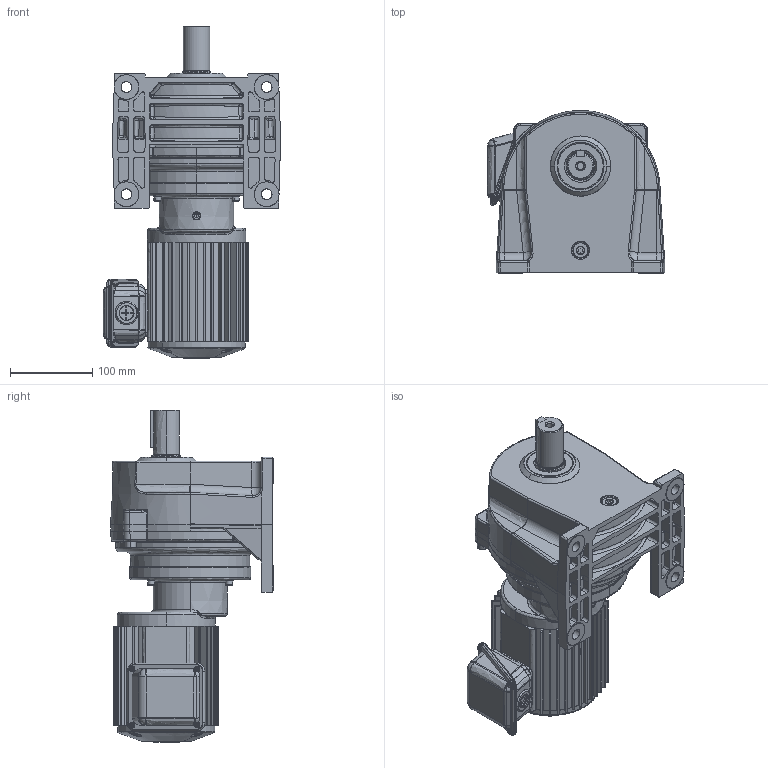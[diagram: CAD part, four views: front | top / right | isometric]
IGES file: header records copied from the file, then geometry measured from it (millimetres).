
Start section: SolidWorks IGES file using analytic representation for surfaces
Global section: file name: \\100.100.100.8\1_共有作業フォルダ\1-5_３Ｄデータ\solidworks\personal-folder\H.Nagayama\SGP1外形\P1(3D)\igs\TML2-02-(300~450).IGS; native system: SolidWorks 2018; preprocessor: SolidWorks 2018; author: sigma-giken; date: 200612.095451; units: millimetre
Bounding box: 215 x 197.5 x 402.5 mm (x, y, z)
Surface area: 552769.3 mm2 (no closed solid volume)
Topology: 0 solids, 0 shells, 1667 faces, 20528 edges, 20494 vertices
Faces by surface type: bspline 902, revolution 765
